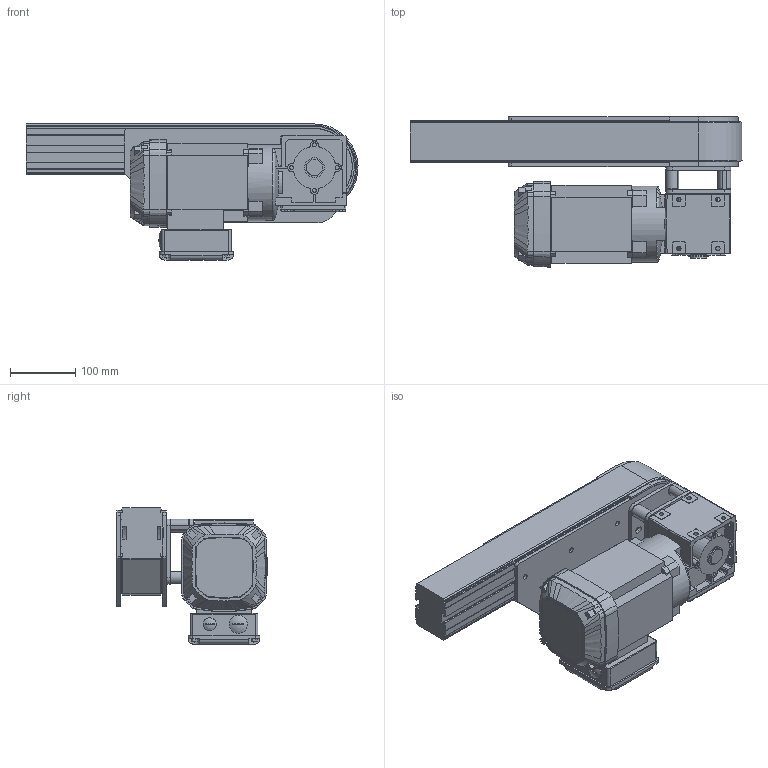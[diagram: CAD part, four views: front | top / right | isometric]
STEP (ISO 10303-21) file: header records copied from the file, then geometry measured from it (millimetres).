
FILE_DESCRIPTION(/* description */ (''),/* implementation_level */ '2;1');
FILE_NAME(/* name */ 'C:\Users\mikael.ljungberg\OneDrive - Carryline AB\Skrivbordet\Tillfalliga_filer\620-30-HRx-2xx.stp',/* time_stamp */ '2021-04-26T07:26:26+02:00',/* author */ ('ML'),/* organization */ (''),/* preprocessor_version */ 'ST-DEVELOPER v18.1',/* originating_system */ 'Autodesk Inventor 2020',/* authorisation */ '');
FILE_SCHEMA (('AUTOMOTIVE_DESIGN { 1 0 10303 214 3 1 1 }'));
Length unit declared in the file: millimetre
Products named in the file (12): 620-30-HRx-2xx; 620-30-xRx-x-xx; Serie 620 Drivenhet; 620-1000+620-2000-01; 900-3010L; 900-3010R; 900-2120R; 900-2120L; 900-3075; 900-3077; 900-3150; 900-4030
Assembly tree (14 placements, depth 4):
  620-30-HRx-2xx
    620-30-xRx-x-xx
      Serie 620 Drivenhet
        620-1000+620-2000-01
        900-3010L
        900-3010R
      900-2120R
      900-2120L
      900-3075
      900-3077
      900-3150  x4
    900-4030
Bounding box: 509.95 x 230.41 x 209 mm (x, y, z)
Volume: 7214411.8 mm3; surface area: 767543.7 mm2
Topology: 12 solids, 14 shells, 1026 faces, 2884 edges, 1917 vertices
Faces by surface type: plane 530, cylinder 385, cone 59, bspline 33, torus 17, sphere 2
Full cylindrical faces by diameter (mm): 5 x4, 6 x9, 6.6 x8, 6.647 x4, 8 x10, 8.5 x8, 20 x1, 25 x1, 26 x3, 28 x1, 30 x2, 37 x1, 45 x2, 117 x1
Entity records: 35242 total; most frequent: CARTESIAN_POINT 8314, DIRECTION 5588, ORIENTED_EDGE 5586, EDGE_CURVE 2793, AXIS2_PLACEMENT_3D 1941, VERTEX_POINT 1860, LINE 1706, VECTOR 1706
